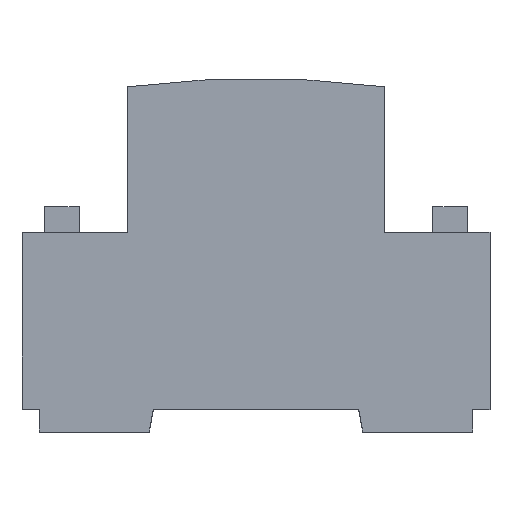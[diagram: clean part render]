
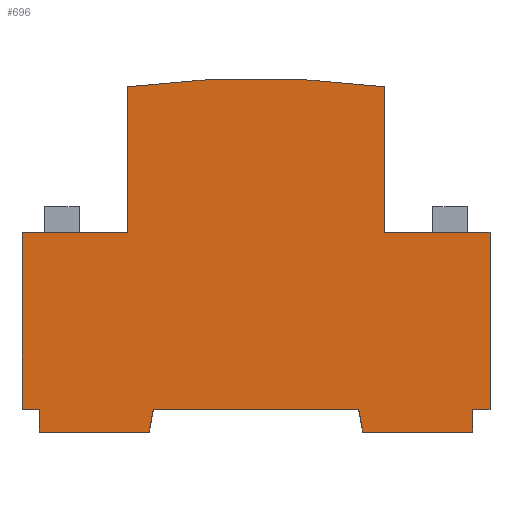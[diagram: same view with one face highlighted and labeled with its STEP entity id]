
A CAD part, top view. The second image highlights one B-rep face of the part: STEP entity #696.
In plain terms, the highlighted planar face has unit normal (0, 0, 1).
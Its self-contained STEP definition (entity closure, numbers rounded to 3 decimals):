
#37=FACE_OUTER_BOUND('',#79,.T.);
#79=EDGE_LOOP('',(#546,#547,#548,#549,#550,#551,#552,#553,#554,#555,#556,
#557,#558,#559,#560,#561));
#101=CIRCLE('',#731,170.);
#118=LINE('',#973,#212);
#120=LINE('',#977,#214);
#122=LINE('',#981,#216);
#124=LINE('',#985,#218);
#126=LINE('',#989,#220);
#128=LINE('',#993,#222);
#130=LINE('',#997,#224);
#132=LINE('',#1001,#226);
#142=LINE('',#1021,#236);
#145=LINE('',#1029,#239);
#147=LINE('',#1033,#241);
#157=LINE('',#1053,#251);
#159=LINE('',#1057,#253);
#161=LINE('',#1061,#255);
#163=LINE('',#1064,#257);
#212=VECTOR('',#783,4.062);
#214=VECTOR('',#787,36.);
#216=VECTOR('',#791,4.062);
#218=VECTOR('',#795,19.295);
#220=VECTOR('',#799,4.);
#222=VECTOR('',#803,3.);
#224=VECTOR('',#807,31.);
#226=VECTOR('',#811,18.5);
#236=VECTOR('',#823,25.504);
#239=VECTOR('',#832,25.504);
#241=VECTOR('',#836,18.5);
#251=VECTOR('',#848,31.);
#253=VECTOR('',#852,3.);
#255=VECTOR('',#856,4.);
#257=VECTOR('',#860,19.295);
#306=VERTEX_POINT('',#970);
#307=VERTEX_POINT('',#972);
#308=VERTEX_POINT('',#976);
#309=VERTEX_POINT('',#980);
#310=VERTEX_POINT('',#984);
#311=VERTEX_POINT('',#988);
#312=VERTEX_POINT('',#992);
#313=VERTEX_POINT('',#996);
#314=VERTEX_POINT('',#1000);
#323=VERTEX_POINT('',#1020);
#324=VERTEX_POINT('',#1024);
#325=VERTEX_POINT('',#1028);
#326=VERTEX_POINT('',#1032);
#335=VERTEX_POINT('',#1052);
#336=VERTEX_POINT('',#1056);
#337=VERTEX_POINT('',#1060);
#371=EDGE_CURVE('',#307,#306,#118,.T.);
#373=EDGE_CURVE('',#308,#307,#120,.T.);
#375=EDGE_CURVE('',#309,#308,#122,.T.);
#377=EDGE_CURVE('',#310,#309,#124,.T.);
#379=EDGE_CURVE('',#311,#310,#126,.T.);
#381=EDGE_CURVE('',#312,#311,#128,.T.);
#383=EDGE_CURVE('',#313,#312,#130,.T.);
#385=EDGE_CURVE('',#314,#313,#132,.T.);
#395=EDGE_CURVE('',#323,#314,#142,.T.);
#397=EDGE_CURVE('',#324,#323,#101,.T.);
#399=EDGE_CURVE('',#325,#324,#145,.T.);
#401=EDGE_CURVE('',#326,#325,#147,.T.);
#411=EDGE_CURVE('',#335,#326,#157,.T.);
#413=EDGE_CURVE('',#336,#335,#159,.T.);
#415=EDGE_CURVE('',#337,#336,#161,.T.);
#417=EDGE_CURVE('',#306,#337,#163,.T.);
#546=ORIENTED_EDGE('',*,*,#417,.T.);
#547=ORIENTED_EDGE('',*,*,#415,.T.);
#548=ORIENTED_EDGE('',*,*,#413,.T.);
#549=ORIENTED_EDGE('',*,*,#411,.T.);
#550=ORIENTED_EDGE('',*,*,#401,.T.);
#551=ORIENTED_EDGE('',*,*,#399,.T.);
#552=ORIENTED_EDGE('',*,*,#397,.T.);
#553=ORIENTED_EDGE('',*,*,#395,.T.);
#554=ORIENTED_EDGE('',*,*,#385,.T.);
#555=ORIENTED_EDGE('',*,*,#383,.T.);
#556=ORIENTED_EDGE('',*,*,#381,.T.);
#557=ORIENTED_EDGE('',*,*,#379,.T.);
#558=ORIENTED_EDGE('',*,*,#377,.T.);
#559=ORIENTED_EDGE('',*,*,#375,.T.);
#560=ORIENTED_EDGE('',*,*,#373,.T.);
#561=ORIENTED_EDGE('',*,*,#371,.T.);
#658=PLANE('',#738);
#696=ADVANCED_FACE('',(#37),#658,.T.);
#731=AXIS2_PLACEMENT_3D('',#1025,#827,#828);
#738=AXIS2_PLACEMENT_3D('',#1065,#861,#862);
#783=DIRECTION('',(0.174,-0.985,0.));
#787=DIRECTION('',(1.,0.,0.));
#791=DIRECTION('',(0.174,0.985,0.));
#795=DIRECTION('',(1.,0.,0.));
#799=DIRECTION('',(0.,-1.,0.));
#803=DIRECTION('',(1.,0.,0.));
#807=DIRECTION('',(0.,-1.,0.));
#811=DIRECTION('',(-1.,0.,0.));
#823=DIRECTION('',(0.,-1.,0.));
#827=DIRECTION('center_axis',(0.,0.,1.));
#828=DIRECTION('ref_axis',(0.132,0.991,0.));
#832=DIRECTION('',(0.,1.,0.));
#836=DIRECTION('',(-1.,0.,0.));
#848=DIRECTION('',(0.,1.,0.));
#852=DIRECTION('',(1.,0.,0.));
#856=DIRECTION('',(0.,1.,0.));
#860=DIRECTION('',(1.,0.,0.));
#861=DIRECTION('center_axis',(0.,0.,1.));
#862=DIRECTION('ref_axis',(1.,0.,0.));
#970=CARTESIAN_POINT('',(18.705,-4.,35.));
#972=CARTESIAN_POINT('',(18.,0.,35.));
#973=CARTESIAN_POINT('',(18.,0.,35.));
#976=CARTESIAN_POINT('',(-18.,0.,35.));
#977=CARTESIAN_POINT('',(-18.,0.,35.));
#980=CARTESIAN_POINT('',(-18.705,-4.,35.));
#981=CARTESIAN_POINT('',(-18.705,-4.,35.));
#984=CARTESIAN_POINT('',(-38.,-4.,35.));
#985=CARTESIAN_POINT('',(-38.,-4.,35.));
#988=CARTESIAN_POINT('',(-38.,0.,35.));
#989=CARTESIAN_POINT('',(-38.,0.,35.));
#992=CARTESIAN_POINT('',(-41.,0.,35.));
#993=CARTESIAN_POINT('',(-41.,0.,35.));
#996=CARTESIAN_POINT('',(-41.,31.,35.));
#997=CARTESIAN_POINT('',(-41.,31.,35.));
#1000=CARTESIAN_POINT('',(-22.5,31.,35.));
#1001=CARTESIAN_POINT('',(-22.5,31.,35.));
#1020=CARTESIAN_POINT('',(-22.5,56.504,35.));
#1021=CARTESIAN_POINT('',(-22.5,56.504,35.));
#1024=CARTESIAN_POINT('',(22.5,56.504,35.));
#1025=CARTESIAN_POINT('Origin',(0.,-112.,35.));
#1028=CARTESIAN_POINT('',(22.5,31.,35.));
#1029=CARTESIAN_POINT('',(22.5,31.,35.));
#1032=CARTESIAN_POINT('',(41.,31.,35.));
#1033=CARTESIAN_POINT('',(41.,31.,35.));
#1052=CARTESIAN_POINT('',(41.,0.,35.));
#1053=CARTESIAN_POINT('',(41.,0.,35.));
#1056=CARTESIAN_POINT('',(38.,0.,35.));
#1057=CARTESIAN_POINT('',(38.,0.,35.));
#1060=CARTESIAN_POINT('',(38.,-4.,35.));
#1061=CARTESIAN_POINT('',(38.,-4.,35.));
#1064=CARTESIAN_POINT('',(18.705,-4.,35.));
#1065=CARTESIAN_POINT('Origin',(0.,0.,35.));
